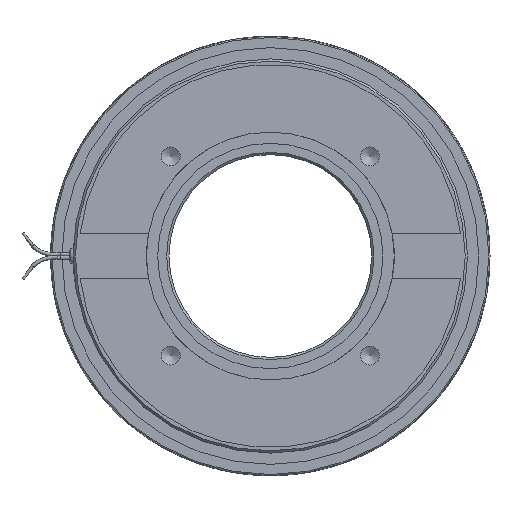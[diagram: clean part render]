
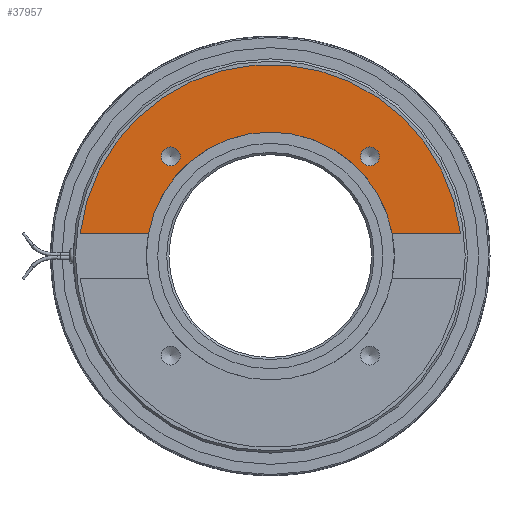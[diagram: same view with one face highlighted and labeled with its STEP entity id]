
A CAD part, left-side view. The second image highlights one B-rep face of the part: STEP entity #37957.
In plain terms, the highlighted planar face has unit normal (-1, 0, 0).
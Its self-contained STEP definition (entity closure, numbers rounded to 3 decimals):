
#82=FACE_BOUND('',#11682,.T.);
#83=FACE_BOUND('',#11683,.T.);
#3772=LINE('',#67616,#5862);
#3773=LINE('',#67620,#5863);
#5862=VECTOR('',#51413,10.);
#5863=VECTOR('',#51416,10.);
#7747=PLANE('',#41812);
#9679=FACE_OUTER_BOUND('',#11681,.T.);
#11681=EDGE_LOOP('',(#29633,#29634,#29635,#29636));
#11682=EDGE_LOOP('',(#29637));
#11683=EDGE_LOOP('',(#29638));
#13255=CIRCLE('',#41796,4.188);
#13257=CIRCLE('',#41800,4.188);
#13263=CIRCLE('',#41813,55.);
#13264=CIRCLE('',#41814,85.);
#15886=VERTEX_POINT('',#67472);
#15889=VERTEX_POINT('',#67481);
#15898=VERTEX_POINT('',#67614);
#15899=VERTEX_POINT('',#67615);
#15900=VERTEX_POINT('',#67617);
#15901=VERTEX_POINT('',#67619);
#20753=EDGE_CURVE('',#15886,#15886,#13255,.T.);
#20757=EDGE_CURVE('',#15889,#15889,#13257,.T.);
#20774=EDGE_CURVE('',#15898,#15899,#3772,.T.);
#20775=EDGE_CURVE('',#15899,#15900,#13263,.T.);
#20776=EDGE_CURVE('',#15900,#15901,#3773,.T.);
#20777=EDGE_CURVE('',#15898,#15901,#13264,.T.);
#29633=ORIENTED_EDGE('',*,*,#20774,.T.);
#29634=ORIENTED_EDGE('',*,*,#20775,.T.);
#29635=ORIENTED_EDGE('',*,*,#20776,.T.);
#29636=ORIENTED_EDGE('',*,*,#20777,.F.);
#29637=ORIENTED_EDGE('',*,*,#20753,.T.);
#29638=ORIENTED_EDGE('',*,*,#20757,.T.);
#37957=ADVANCED_FACE('',(#9679,#82,#83),#7747,.T.);
#41796=AXIS2_PLACEMENT_3D('',#67473,#51374,#51375);
#41800=AXIS2_PLACEMENT_3D('',#67482,#51384,#51385);
#41812=AXIS2_PLACEMENT_3D('',#67613,#51411,#51412);
#41813=AXIS2_PLACEMENT_3D('',#67618,#51414,#51415);
#41814=AXIS2_PLACEMENT_3D('',#67621,#51417,#51418);
#51374=DIRECTION('center_axis',(1.,0.,0.));
#51375=DIRECTION('ref_axis',(0.,0.,1.));
#51384=DIRECTION('center_axis',(1.,0.,0.));
#51385=DIRECTION('ref_axis',(0.,0.,1.));
#51411=DIRECTION('center_axis',(-1.,0.,0.));
#51412=DIRECTION('ref_axis',(0.,0.,1.));
#51413=DIRECTION('',(0.,-1.,0.));
#51414=DIRECTION('center_axis',(1.,0.,0.));
#51415=DIRECTION('ref_axis',(0.,1.,0.));
#51416=DIRECTION('',(0.,-1.,0.));
#51417=DIRECTION('center_axis',(1.,0.,0.));
#51418=DIRECTION('ref_axis',(0.,1.,0.));
#67472=CARTESIAN_POINT('',(-18.75,-44.194,40.006));
#67473=CARTESIAN_POINT('Origin',(-18.75,-44.194,44.194));
#67481=CARTESIAN_POINT('',(-18.75,44.194,40.006));
#67482=CARTESIAN_POINT('Origin',(-18.75,44.194,44.194));
#67613=CARTESIAN_POINT('Origin',(-18.75,70.,0.));
#67614=CARTESIAN_POINT('',(-18.75,84.41,10.));
#67615=CARTESIAN_POINT('',(-18.75,54.083,10.));
#67616=CARTESIAN_POINT('',(-18.75,85.,10.));
#67617=CARTESIAN_POINT('',(-18.75,-54.083,10.));
#67618=CARTESIAN_POINT('Origin',(-18.75,0.,0.));
#67619=CARTESIAN_POINT('',(-18.75,-84.41,10.));
#67620=CARTESIAN_POINT('',(-18.75,85.,10.));
#67621=CARTESIAN_POINT('Origin',(-18.75,0.,0.));
